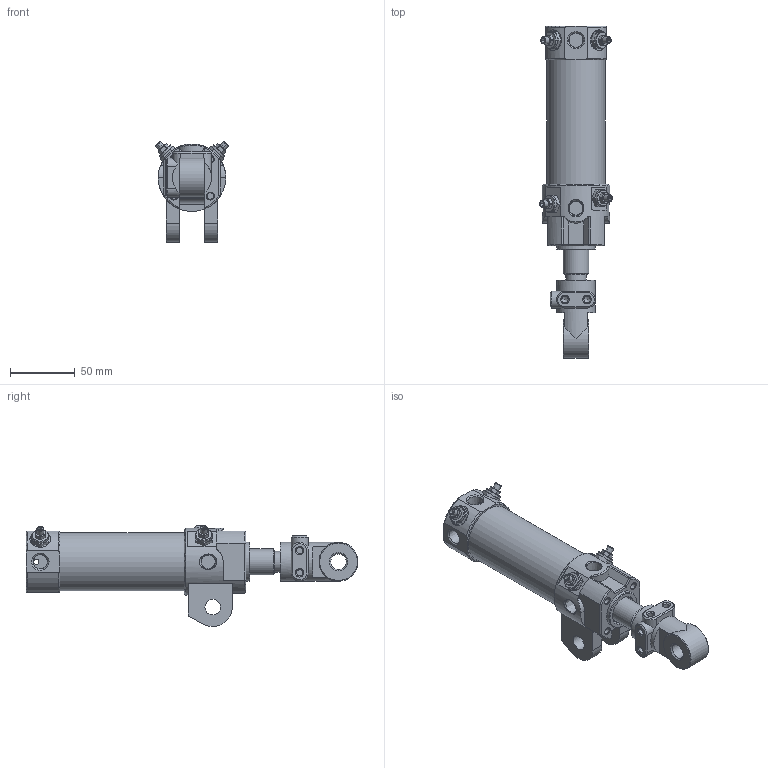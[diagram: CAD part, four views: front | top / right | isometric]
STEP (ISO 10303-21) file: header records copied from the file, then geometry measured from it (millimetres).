
FILE_DESCRIPTION((''),'2;1');
FILE_NAME('I:\3D電子目錄\氣缸\DCK\DCK\DCK-1B-40x50-I.stp','2008-02-26T11:01:31',('Administrator'),(''),'Autodesk Inventor 11','Autodesk Inventor 11','');
FILE_SCHEMA(('AUTOMOTIVE_DESIGN { 1 0 10303 214 1 1 1 1 }'));
Length unit declared in the file: millimetre
Products named in the file (6): DCK-1B-40-I; 緩衝針; 緩衝針-1; 緩衝針-201; 緩衝針-3
Assembly tree (8 placements, depth 3):
  DCK-1B-40-I
    DCK-1B-40-I
    緩衝針  x4
      緩衝針-1
      緩衝針-201
      緩衝針-3
Bounding box: 56.06 x 256 x 78.02 mm (x, y, z)
Volume: 223196.1 mm3; surface area: 89229.4 mm2
Topology: 16 solids, 16 shells, 688 faces, 1580 edges, 982 vertices
Faces by surface type: plane 234, cylinder 209, cone 144, bspline 64, torus 35, sphere 2
Full cylindrical faces by diameter (mm): 2 x1, 3 x3, 3.8 x2, 4 x6, 4.6 x4, 5 x8, 5.1 x4, 5.2 x12, 5.5 x4, 7 x1, 7.25 x1, 7.9 x4, 8 x2, 8.3 x1, 10 x2, 12 x3, 12.8 x4, 16 x3, 20 x1, 21 x1, 22 x3, 23 x1, 24.7 x1, 26 x1, 28 x1, 29 x1, 30 x3, 33 x1, 40 x1, 42 x2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
Entity records: 22110 total; most frequent: CARTESIAN_POINT 12878, DIRECTION 1810, ORIENTED_EDGE 1772, EDGE_CURVE 886, AXIS2_PLACEMENT_3D 781, EDGE_LOOP 625, VERTEX_POINT 617, FACE_OUTER_BOUND 437
